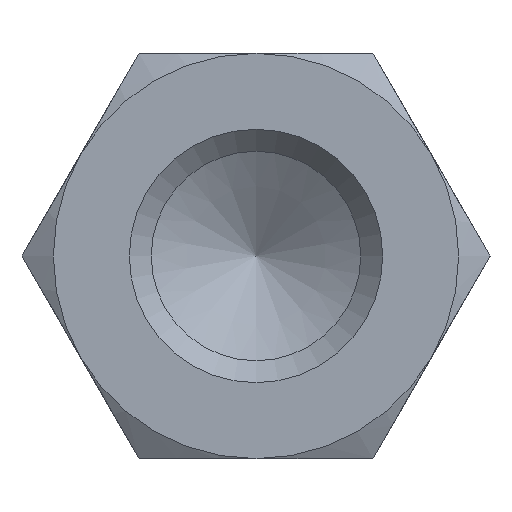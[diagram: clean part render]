
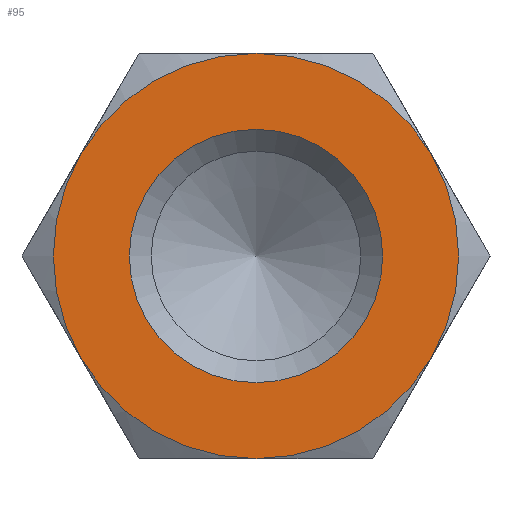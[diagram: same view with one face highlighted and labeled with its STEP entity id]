
A CAD part, left-side view. The second image highlights one B-rep face of the part: STEP entity #95.
In plain terms, the highlighted planar face has unit normal (-1, 0, 0).
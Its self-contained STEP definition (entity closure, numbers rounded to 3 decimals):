
#95 = ADVANCED_FACE( '', ( #147, #148 ), #149, .F. );
#147 = FACE_OUTER_BOUND( '', #206, .T. );
#148 = FACE_BOUND( '', #207, .T. );
#149 = PLANE( '', #208 );
#206 = EDGE_LOOP( '', ( #356, #357, #358, #359, #360, #361 ) );
#207 = EDGE_LOOP( '', ( #362 ) );
#208 = AXIS2_PLACEMENT_3D( '', #363, #364, #365 );
#356 = ORIENTED_EDGE( '', *, *, #440, .F. );
#357 = ORIENTED_EDGE( '', *, *, #425, .F. );
#358 = ORIENTED_EDGE( '', *, *, #441, .F. );
#359 = ORIENTED_EDGE( '', *, *, #437, .F. );
#360 = ORIENTED_EDGE( '', *, *, #442, .F. );
#361 = ORIENTED_EDGE( '', *, *, #443, .F. );
#362 = ORIENTED_EDGE( '', *, *, #439, .T. );
#363 = CARTESIAN_POINT( '', ( -60., 0., 0. ) );
#364 = DIRECTION( '', ( 1., 0., 0. ) );
#365 = DIRECTION( '', ( 0., 0., -1. ) );
#425 = EDGE_CURVE( '', #495, #493, #497, .T. );
#437 = EDGE_CURVE( '', #447, #506, #513, .T. );
#439 = EDGE_CURVE( '', #516, #516, #517, .T. );
#440 = EDGE_CURVE( '', #493, #486, #518, .T. );
#441 = EDGE_CURVE( '', #506, #495, #519, .T. );
#442 = EDGE_CURVE( '', #481, #447, #520, .T. );
#443 = EDGE_CURVE( '', #486, #481, #521, .T. );
#447 = VERTEX_POINT( '', #525 );
#481 = VERTEX_POINT( '', #595 );
#486 = VERTEX_POINT( '', #611 );
#493 = VERTEX_POINT( '', #632 );
#495 = VERTEX_POINT( '', #637 );
#497 = CIRCLE( '', #644, 4. );
#506 = VERTEX_POINT( '', #670 );
#513 = CIRCLE( '', #701, 4. );
#516 = VERTEX_POINT( '', #704 );
#517 = CIRCLE( '', #705, 2.5 );
#518 = CIRCLE( '', #706, 4. );
#519 = CIRCLE( '', #707, 4. );
#520 = CIRCLE( '', #708, 4. );
#521 = CIRCLE( '', #709, 4. );
#525 = CARTESIAN_POINT( '', ( -60., -3.464, 2. ) );
#595 = CARTESIAN_POINT( '', ( -60., 0., 4. ) );
#611 = CARTESIAN_POINT( '', ( -60., 3.464, 2. ) );
#632 = CARTESIAN_POINT( '', ( -60., 3.464, -2. ) );
#637 = CARTESIAN_POINT( '', ( -60., 0., -4. ) );
#644 = AXIS2_PLACEMENT_3D( '', #744, #745, #746 );
#670 = CARTESIAN_POINT( '', ( -60., -3.464, -2. ) );
#701 = AXIS2_PLACEMENT_3D( '', #749, #750, #751 );
#704 = CARTESIAN_POINT( '', ( -60., 0., -2.5 ) );
#705 = AXIS2_PLACEMENT_3D( '', #755, #756, #757 );
#706 = AXIS2_PLACEMENT_3D( '', #758, #759, #760 );
#707 = AXIS2_PLACEMENT_3D( '', #761, #762, #763 );
#708 = AXIS2_PLACEMENT_3D( '', #764, #765, #766 );
#709 = AXIS2_PLACEMENT_3D( '', #767, #768, #769 );
#744 = CARTESIAN_POINT( '', ( -60., 0., 0. ) );
#745 = DIRECTION( '', ( 1., 0., 0. ) );
#746 = DIRECTION( '', ( 0., 0., -1. ) );
#749 = CARTESIAN_POINT( '', ( -60., 0., 0. ) );
#750 = DIRECTION( '', ( 1., 0., 0. ) );
#751 = DIRECTION( '', ( 0., 0., -1. ) );
#755 = CARTESIAN_POINT( '', ( -60., 0., 0. ) );
#756 = DIRECTION( '', ( 1., 0., 0. ) );
#757 = DIRECTION( '', ( 0., 0., -1. ) );
#758 = CARTESIAN_POINT( '', ( -60., 0., 0. ) );
#759 = DIRECTION( '', ( 1., 0., 0. ) );
#760 = DIRECTION( '', ( 0., 0., -1. ) );
#761 = CARTESIAN_POINT( '', ( -60., 0., 0. ) );
#762 = DIRECTION( '', ( 1., 0., 0. ) );
#763 = DIRECTION( '', ( 0., 0., -1. ) );
#764 = CARTESIAN_POINT( '', ( -60., 0., 0. ) );
#765 = DIRECTION( '', ( 1., 0., 0. ) );
#766 = DIRECTION( '', ( 0., 0., -1. ) );
#767 = CARTESIAN_POINT( '', ( -60., 0., 0. ) );
#768 = DIRECTION( '', ( 1., 0., 0. ) );
#769 = DIRECTION( '', ( 0., 0., -1. ) );
